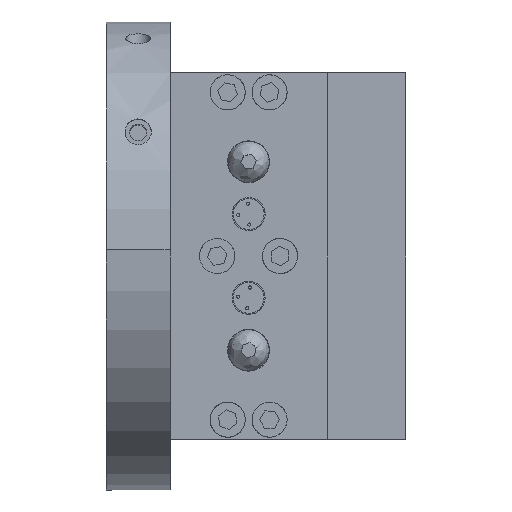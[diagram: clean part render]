
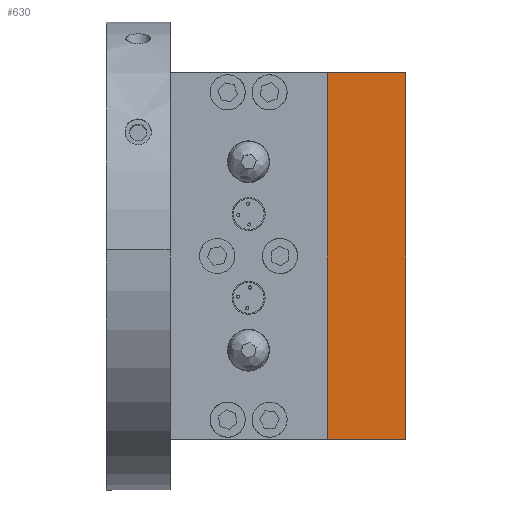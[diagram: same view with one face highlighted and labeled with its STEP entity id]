
A CAD part, left-side view. The second image highlights one B-rep face of the part: STEP entity #630.
In plain terms, the highlighted planar face has unit normal (-1, 0, 0).
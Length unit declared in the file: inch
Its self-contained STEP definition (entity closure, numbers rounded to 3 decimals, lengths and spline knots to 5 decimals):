
#135 = CARTESIAN_POINT ( 'NONE',  ( -1.125, 0.375, 0. ) ) ;
#411 = EDGE_LOOP ( 'NONE', ( #8778, #16200, #997, #8437 ) ) ;
#630 = ADVANCED_FACE ( 'NONE', ( #1824 ), #6192, .T. ) ;
#661 = EDGE_CURVE ( 'NONE', #12393, #3133, #5684, .T. ) ;
#997 = ORIENTED_EDGE ( 'NONE', *, *, #8014, .T. ) ;
#1242 = LINE ( 'NONE', #4990, #15105 ) ;
#1410 = VECTOR ( 'NONE', #12905, 39.37008 ) ;
#1557 = LINE ( 'NONE', #11795, #3480 ) ;
#1824 = FACE_OUTER_BOUND ( 'NONE', #411, .T. ) ;
#2215 = LINE ( 'NONE', #7987, #8690 ) ;
#2719 = DIRECTION ( 'NONE',  ( 0., -1., 0. ) ) ;
#3133 = VERTEX_POINT ( 'NONE', #7013 ) ;
#3480 = VECTOR ( 'NONE', #2719, 39.37008 ) ;
#4077 = VERTEX_POINT ( 'NONE', #135 ) ;
#4990 = CARTESIAN_POINT ( 'NONE',  ( -1.125, 0.375, -3.5 ) ) ;
#5684 = LINE ( 'NONE', #12954, #1410 ) ;
#5917 = DIRECTION ( 'NONE',  ( 0., 0., 1. ) ) ;
#6192 = PLANE ( 'NONE',  #8143 ) ;
#7013 = CARTESIAN_POINT ( 'NONE',  ( -1.125, -0.375, 0. ) ) ;
#7987 = CARTESIAN_POINT ( 'NONE',  ( -1.125, 0.375, 0. ) ) ;
#8014 = EDGE_CURVE ( 'NONE', #16698, #12393, #1557, .T. ) ;
#8143 = AXIS2_PLACEMENT_3D ( 'NONE', #8676, #11470, #5917 ) ;
#8437 = ORIENTED_EDGE ( 'NONE', *, *, #661, .T. ) ;
#8455 = EDGE_CURVE ( 'NONE', #16698, #4077, #1242, .T. ) ;
#8676 = CARTESIAN_POINT ( 'NONE',  ( -1.125, 0.375, -3.5 ) ) ;
#8690 = VECTOR ( 'NONE', #10590, 39.37008 ) ;
#8778 = ORIENTED_EDGE ( 'NONE', *, *, #10555, .F. ) ;
#10555 = EDGE_CURVE ( 'NONE', #4077, #3133, #2215, .T. ) ;
#10590 = DIRECTION ( 'NONE',  ( 0., -1., 0. ) ) ;
#11470 = DIRECTION ( 'NONE',  ( -1., 0., 0. ) ) ;
#11795 = CARTESIAN_POINT ( 'NONE',  ( -1.125, 0.375, -3.5 ) ) ;
#12393 = VERTEX_POINT ( 'NONE', #15239 ) ;
#12905 = DIRECTION ( 'NONE',  ( 0., 0., 1. ) ) ;
#12954 = CARTESIAN_POINT ( 'NONE',  ( -1.125, -0.375, -3.5 ) ) ;
#14095 = DIRECTION ( 'NONE',  ( 0., 0., 1. ) ) ;
#14814 = CARTESIAN_POINT ( 'NONE',  ( -1.125, 0.375, -3.5 ) ) ;
#15105 = VECTOR ( 'NONE', #14095, 39.37008 ) ;
#15239 = CARTESIAN_POINT ( 'NONE',  ( -1.125, -0.375, -3.5 ) ) ;
#16200 = ORIENTED_EDGE ( 'NONE', *, *, #8455, .F. ) ;
#16698 = VERTEX_POINT ( 'NONE', #14814 ) ;
